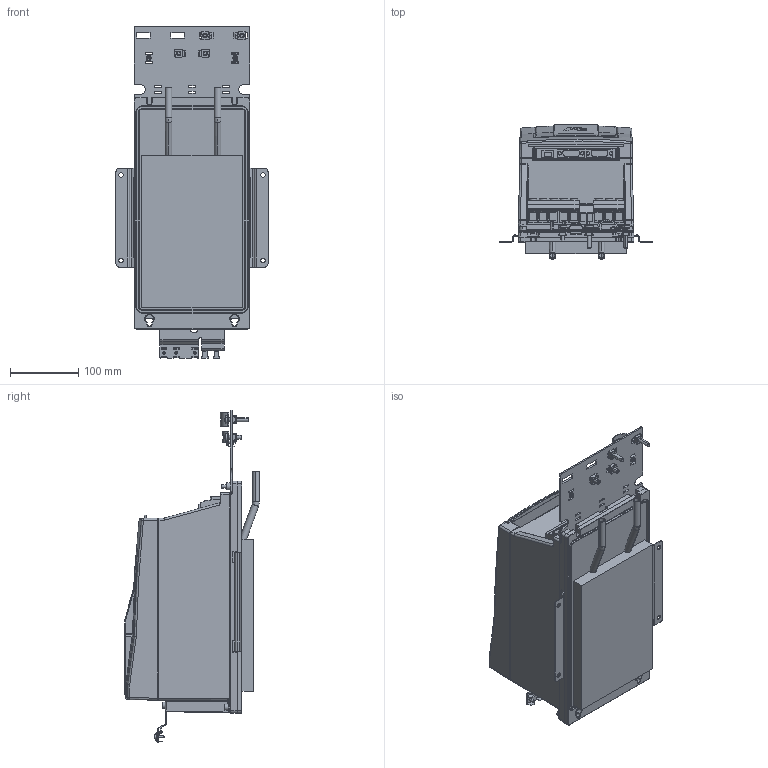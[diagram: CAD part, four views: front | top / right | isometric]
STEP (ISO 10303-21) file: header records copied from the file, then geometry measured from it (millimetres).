
FILE_DESCRIPTION (( 'STEP AP214' ), '1' );
FILE_NAME ('F6-3 TW5-K001.STEP', '2022-05-25T09:57:14', ( '' ), ( '' ), 'SwSTEP 2.0', 'SolidWorks 2019', '' );
FILE_SCHEMA (( 'AUTOMOTIVE_DESIGN' ));
Length unit declared in the file: millimetre
Products named in the file (13): 10040482_000_Kundenmodell; Kundenmodell^10040482_000; 10035735_000_Kundenmodell; Kundenmodell^10047114_000; Kundenmodell^10059764_000; 10047114_000_Kundenmodell; F6-3 TW5-K001; 10059764_000_Blindabdeckung (Kundenmodell); 10068340_000_Leistungsteil TW5 (Kundenmodell); 10061030_000_Kundenmodell; Kundenmodell^10061030_000; Kundenmodell^10068340_000; Kundenmodell^10035735_000
Assembly tree (12 placements, depth 4):
  F6-3 TW5-K001
    10068340_000_Leistungsteil TW5 (Kundenmodell)
      Kundenmodell^10068340_000
    10040482_000_Kundenmodell
      Kundenmodell^10040482_000
    10035735_000_Kundenmodell
      10059764_000_Blindabdeckung (Kundenmodell)
        Kundenmodell^10059764_000
      Kundenmodell^10035735_000
    10047114_000_Kundenmodell
      Kundenmodell^10047114_000
    10061030_000_Kundenmodell
      Kundenmodell^10061030_000
Bounding box: 223 x 197.46 x 486.8 mm (x, y, z)
Volume: 8056747.6 mm3; surface area: 655759.2 mm2
Topology: 16 solids, 31 shells, 3574 faces, 9413 edges, 5958 vertices
Faces by surface type: plane 1636, cylinder 1221, bspline 373, cone 155, torus 131, sphere 58
Entity records: 124245 total; most frequent: CARTESIAN_POINT 34440, ORIENTED_EDGE 18698, DIRECTION 16910, EDGE_CURVE 9349, VERTEX_POINT 5957, AXIS2_PLACEMENT_3D 5885, VECTOR 5140, LINE 5140
